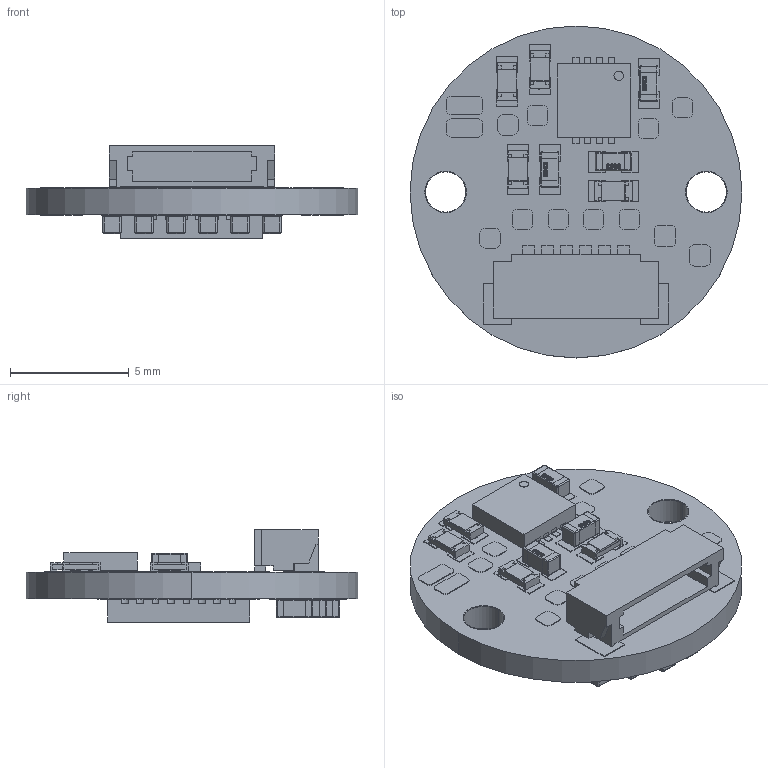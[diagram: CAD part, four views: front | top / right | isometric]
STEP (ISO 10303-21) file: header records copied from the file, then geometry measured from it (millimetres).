
FILE_DESCRIPTION (( 'STEP AP214' ), '1' );
FILE_NAME ('MODM375.STEP', '2019-12-13T12:19:41', ( '' ), ( '' ), 'SwSTEP 2.0', 'SolidWorks 2016', '' );
FILE_SCHEMA (( 'AUTOMOTIVE_DESIGN' ));
Length unit declared in the file: millimetre
Products named in the file (1): MODM375
Bounding box: 14 x 14 x 3.89 mm (x, y, z)
Volume: 241.8 mm3; surface area: 847.2 mm2
Topology: 132 solids, 132 shells, 2785 faces, 7133 edges, 4624 vertices
Faces by surface type: plane 1986, bspline 540, cylinder 259
Entity records: 139139 total; most frequent: CARTESIAN_POINT 43667, ORIENTED_EDGE 14122, DIRECTION 10847, EDGE_CURVE 7061, LINE 5607, VECTOR 5607, VERTEX_POINT 4624, UNCERTAINTY_MEASURE_WITH_UNIT 2909
